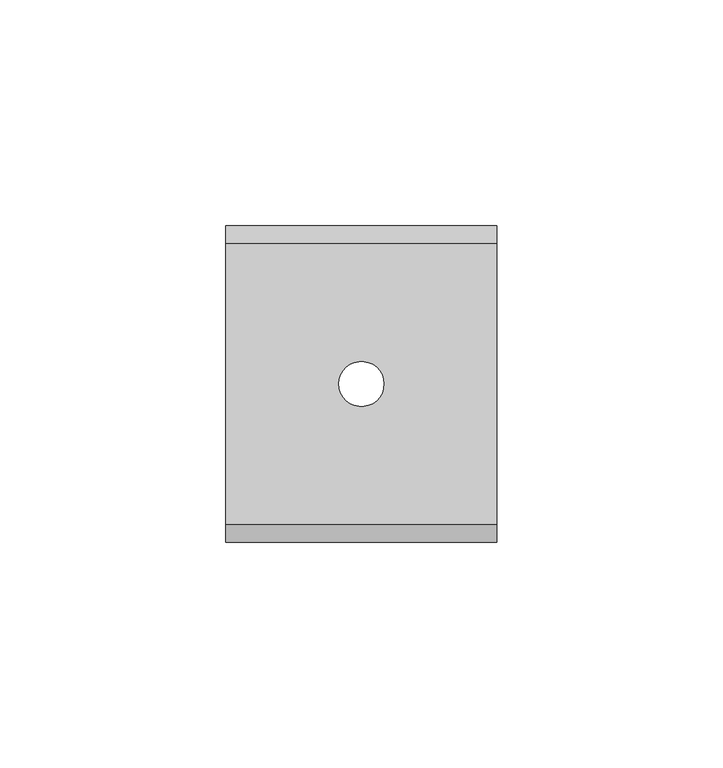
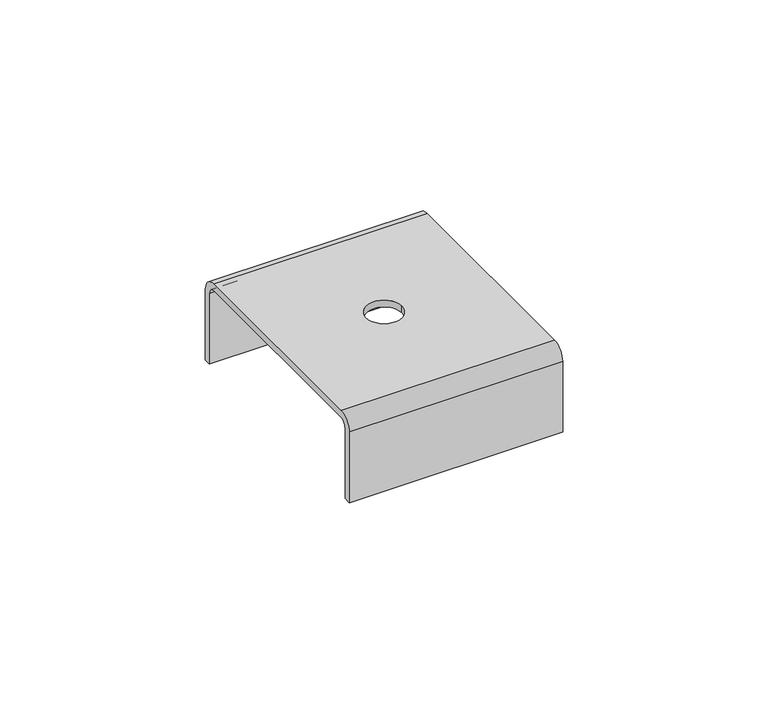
"""IFC4 building model written with IfcOpenShell, lengths in millimetres: proxy geometry, КМ Профиль_Потолочный подвес  для шпильки PS : PS HD."""

from ifc_helpers import new_model, si_unit, frame, origin, place, context, project, spatial, polyline, circle_curve, source, transform, mapped, element, save
from ifc_brep_helpers import plane_surface, cylinder_surface, revolved_surface, advanced_brep


def generic_models_6eeadc8e(model_context):
    return source(origin(), model_context, "Body", "AdvancedBrep", [
        advanced_brep(
        [(-30.0, -31.0, 0.0), (-30.0, 31.0, 0.0), (-30.0, 35.0, -4.0), (-30.0, 35.0, -25.0), (-30.0, 33.0, -25.0), (-30.0, 33.0, -4.0), (-30.0, 31.0, -2.0), (-30.0, -31.0, -2.0), (-30.0, -33.0, -4.0), (-30.0, -33.0, -25.0), (-30.0, -35.0, -25.0), (-30.0, -35.0, -4.0), (30.0, 31.0, 0.0), (30.0, -31.0, 0.0), (30.0, -35.0, -4.0), (30.0, -35.0, -25.0), (30.0, -33.0, -25.0), (30.0, -33.0, -4.0), (30.0, -31.0, -2.0), (30.0, 31.0, -2.0), (30.0, 33.0, -4.0), (30.0, 33.0, -25.0), (30.0, 35.0, -25.0), (30.0, 35.0, -4.0), (5.0, 0.0, 0.0), (-5.0, 0.0, 0.0), (-5.0, 0.0, -2.0), (5.0, 0.0, -2.0)],
        [
            (0, 1),
            (1, 2, circle_curve(frame((-30.0, 31.0, -4.0), z_axis=(-1.0, 0.0, 0.0), x_axis=(0.0, 1.0, 0.0)), 4.0)),
            (2, 3),
            (3, 4),
            (4, 5),
            (5, 6, circle_curve(frame((-30.0, 31.0, -4.0), z_axis=(1.0, 0.0, 0.0), x_axis=(0.0, 1.0, 0.0)), 2.0)),
            (6, 7),
            (7, 8, circle_curve(frame((-30.0, -31.0, -4.0), z_axis=(1.0, 0.0, 0.0), x_axis=(0.0, 1.0, 0.0)), 2.0)),
            (8, 9),
            (9, 10),
            (10, 11),
            (11, 0, circle_curve(frame((-30.0, -31.0, -4.0), z_axis=(-1.0, 0.0, 0.0), x_axis=(0.0, 1.0, 0.0)), 4.0)),
            (12, 13),
            (13, 14, circle_curve(frame((30.0, -31.0, -4.0), z_axis=(1.0, 0.0, 0.0), x_axis=(0.0, 1.0, 0.0)), 4.0)),
            (14, 15),
            (15, 16),
            (16, 17),
            (17, 18, circle_curve(frame((30.0, -31.0, -4.0), z_axis=(-1.0, 0.0, 0.0), x_axis=(0.0, 1.0, 0.0)), 2.0)),
            (18, 19),
            (19, 20, circle_curve(frame((30.0, 31.0, -4.0), z_axis=(-1.0, 0.0, 0.0), x_axis=(0.0, 1.0, 0.0)), 2.0)),
            (20, 21),
            (21, 22),
            (22, 23),
            (23, 12, circle_curve(frame((30.0, 31.0, -4.0), z_axis=(1.0, 0.0, 0.0), x_axis=(0.0, 1.0, 0.0)), 4.0)),
            (0, 13),
            (12, 1),
            (24, 25, circle_curve(frame((0.0, 0.0, 0.0), z_axis=(0.0, 0.0, -1.0), x_axis=(1.0, 0.0, 0.0)), 5.0)),
            (25, 24, circle_curve(frame((0.0, 0.0, 0.0), z_axis=(0.0, 0.0, -1.0), x_axis=(1.0, 0.0, 0.0)), 5.0)),
            (8, 17),
            (16, 9),
            (15, 10),
            (14, 11),
            (6, 19),
            (18, 7),
            (26, 27, circle_curve(frame((0.0, 0.0, -2.0), z_axis=(0.0, 0.0, 1.0), x_axis=(1.0, 0.0, 0.0)), 5.0)),
            (27, 26, circle_curve(frame((0.0, 0.0, -2.0), z_axis=(0.0, 0.0, 1.0), x_axis=(1.0, 0.0, 0.0)), 5.0)),
            (2, 23),
            (22, 3),
            (21, 4),
            (20, 5),
            (24, 27),
            (26, 25),
        ],
        [
            plane_surface(frame((-30.0, 0.0, 0.0), z_axis=(-1.0, 0.0, 0.0), x_axis=(0.0, 0.0, 1.0))),
            plane_surface(frame((30.0, 0.0, 0.0), z_axis=(1.0, 0.0, 0.0), x_axis=(0.0, 0.0, 1.0))),
            plane_surface(frame((-30.0, -31.0, 0.0), z_axis=(0.0, 0.0, 1.0), x_axis=(1.0, 0.0, 0.0))),
            plane_surface(frame((-30.0, -33.0, -4.0), z_axis=(0.0, 1.0, 0.0), x_axis=(1.0, 0.0, 0.0))),
            plane_surface(frame((-30.0, -33.0, -25.0), z_axis=(0.0, 0.0, -1.0), x_axis=(1.0, 0.0, 0.0))),
            plane_surface(frame((-30.0, -35.0, -25.0), z_axis=(0.0, -1.0, 0.0), x_axis=(1.0, 0.0, 0.0))),
            plane_surface(frame((-30.0, 31.0, -2.0), z_axis=(0.0, 0.0, -1.0), x_axis=(1.0, 0.0, 0.0))),
            plane_surface(frame((-30.0, 35.0, -4.0), z_axis=(0.0, 1.0, 0.0), x_axis=(1.0, 0.0, 0.0))),
            plane_surface(frame((-30.0, 35.0, -25.0), z_axis=(0.0, 0.0, -1.0), x_axis=(1.0, 0.0, 0.0))),
            plane_surface(frame((-30.0, 33.0, -25.0), z_axis=(0.0, -1.0, 0.0), x_axis=(1.0, 0.0, 0.0))),
            revolved_surface(polyline([(30.0, 33.0, -4.0), (-30.0, 33.0, -4.0)]), (-30.0, 31.0, -4.0), (1.0, 0.0, 0.0)),
            revolved_surface(polyline([(30.0, -29.0, -4.0), (-30.0, -29.0, -4.0)]), (-30.0, -31.0, -4.0), (1.0, 0.0, 0.0)),
            cylinder_surface(frame((-30.0, -31.0, -4.0), z_axis=(-1.0, 0.0, 0.0), x_axis=(0.0, 1.0, 0.0)), 4.0),
            cylinder_surface(frame((-30.0, 31.0, -4.0), z_axis=(-1.0, 0.0, 0.0), x_axis=(0.0, 1.0, 0.0)), 4.0),
            revolved_surface(polyline([(5.0, 0.0, 0.0), (5.0, 0.0, -2.0)]), (0.0, 0.0, -2.0), (0.0, 0.0, 1.0)),
        ],
        [
            (0, [[1, 2, 3, 4, 5, 6, 7, 8, 9, 10, 11, 12]]),
            (1, [[13, 14, 15, 16, 17, 18, 19, 20, 21, 22, 23, 24]]),
            (2, [[-1, 25, -13, 26], [27, 28]]),
            (3, [[-9, 29, -17, 30]]),
            (4, [[-10, -30, -16, 31]]),
            (5, [[-11, -31, -15, 32]]),
            (6, [[-7, 33, -19, 34], [35, 36]]),
            (7, [[-3, 37, -23, 38]]),
            (8, [[-4, -38, -22, 39]]),
            (9, [[-5, -39, -21, 40]]),
            (10, [[-6, -40, -20, -33]]),
            (11, [[-8, -34, -18, -29]]),
            (12, [[-12, -32, -14, -25]]),
            (13, [[-2, -26, -24, -37]]),
            (14, [[41, -35, 42, -27]]),
            (14, [[-41, -28, -42, -36]]),
        ],
    ),
    ])


if __name__ == "__main__":
    model = new_model("IFC4")
    model_context = context("Model", 3, world=origin())
    ifc_project = project(units=[si_unit("LENGTHUNIT", "METRE", prefix="MILLI")], contexts=[model_context])
    site = spatial("IfcSite", under=ifc_project)
    building = spatial("IfcBuilding", under=site)
    placement = place(None, origin())
    generic_models_shape = generic_models_6eeadc8e(model_context)
    element("IfcBuildingElementProxy", 1, Name="КМ Профиль_Потолочный подвес  для шпильки PS : PS HD", ObjectType="КМ Профиль_Потолочный подвес  для шпильки PS : PS HD", at=placement, inside=building, context=model_context, shape_type="MappedRepresentation", body=[
        mapped(generic_models_shape, transform((0.0, 0.0, 0.0), x_axis=(1.0, 0.0, 0.0), y_axis=(0.0, 1.0, 0.0), z_axis=(0.0, 0.0, 1.0))),
    ])
    save(model, "model.ifc")
